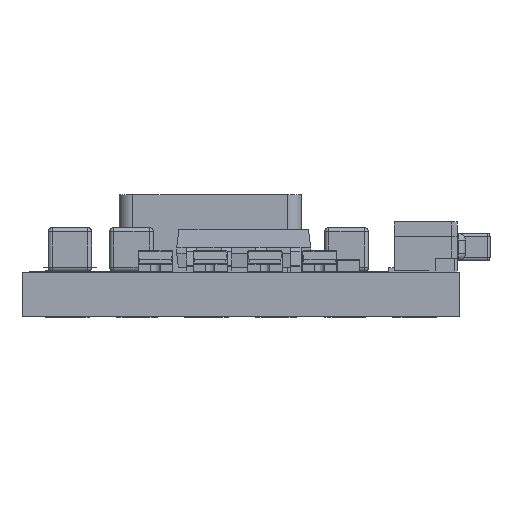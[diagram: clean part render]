
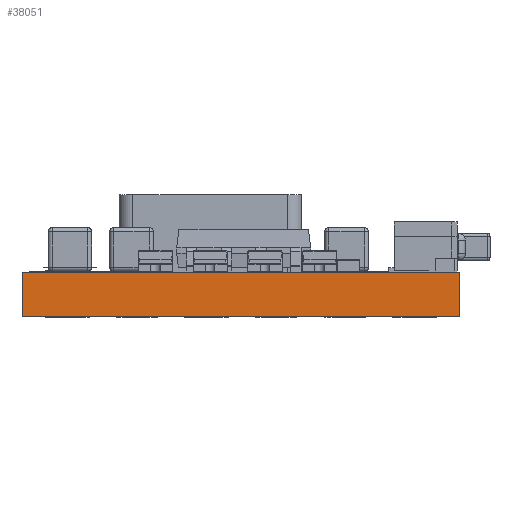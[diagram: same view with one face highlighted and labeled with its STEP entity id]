
A CAD part, left-side view. The second image highlights one B-rep face of the part: STEP entity #38051.
In plain terms, the highlighted planar face has unit normal (-1, 0, 0).
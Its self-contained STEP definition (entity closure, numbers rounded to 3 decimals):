
#2350=PLANE('',#39798);
#3498=LINE('',#56648,#6667);
#4448=LINE('',#69682,#7617);
#5516=LINE('',#77183,#8685);
#5521=LINE('',#77191,#8690);
#6667=VECTOR('',#42886,10.);
#7617=VECTOR('',#44212,10.);
#8685=VECTOR('',#46072,10.);
#8690=VECTOR('',#46081,10.);
#10762=FACE_OUTER_BOUND('',#12980,.T.);
#12980=EDGE_LOOP('',(#35146,#35147,#35148,#35149));
#16420=VERTEX_POINT('',#56646);
#16421=VERTEX_POINT('',#56647);
#17776=VERTEX_POINT('',#69679);
#17777=VERTEX_POINT('',#69681);
#20672=EDGE_CURVE('',#16420,#16421,#3498,.T.);
#22685=EDGE_CURVE('',#17776,#17777,#4448,.T.);
#24290=EDGE_CURVE('',#16420,#17777,#5516,.T.);
#24295=EDGE_CURVE('',#17776,#16421,#5521,.T.);
#35146=ORIENTED_EDGE('',*,*,#24295,.T.);
#35147=ORIENTED_EDGE('',*,*,#20672,.F.);
#35148=ORIENTED_EDGE('',*,*,#24290,.T.);
#35149=ORIENTED_EDGE('',*,*,#22685,.F.);
#38051=ADVANCED_FACE('',(#10762),#2350,.T.);
#39798=AXIS2_PLACEMENT_3D('',#77192,#46082,#46083);
#42886=DIRECTION('',(0.,-1.,0.));
#44212=DIRECTION('',(0.,1.,0.));
#46072=DIRECTION('',(0.,0.,-1.));
#46081=DIRECTION('',(0.,0.,1.));
#46082=DIRECTION('center_axis',(-1.,0.,0.));
#46083=DIRECTION('ref_axis',(0.,-1.,0.));
#56646=CARTESIAN_POINT('',(0.,16.,1.6));
#56647=CARTESIAN_POINT('',(0.,0.,1.6));
#56648=CARTESIAN_POINT('',(0.,16.,1.6));
#69679=CARTESIAN_POINT('',(0.,0.,-0.01));
#69681=CARTESIAN_POINT('',(0.,16.,-0.01));
#69682=CARTESIAN_POINT('',(0.,0.,-0.01));
#77183=CARTESIAN_POINT('',(0.,16.,0.));
#77191=CARTESIAN_POINT('',(0.,0.,0.));
#77192=CARTESIAN_POINT('Origin',(0.,16.,0.));
